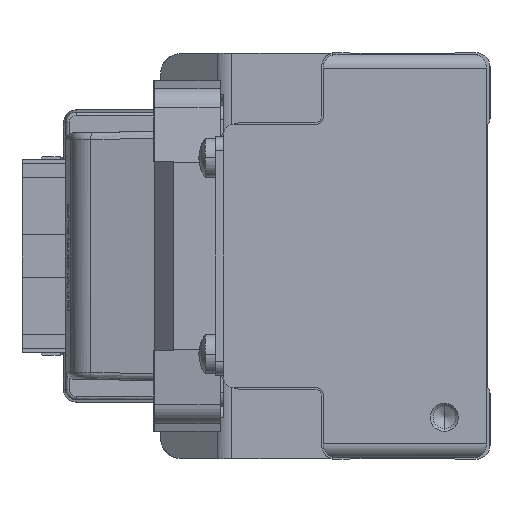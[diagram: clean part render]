
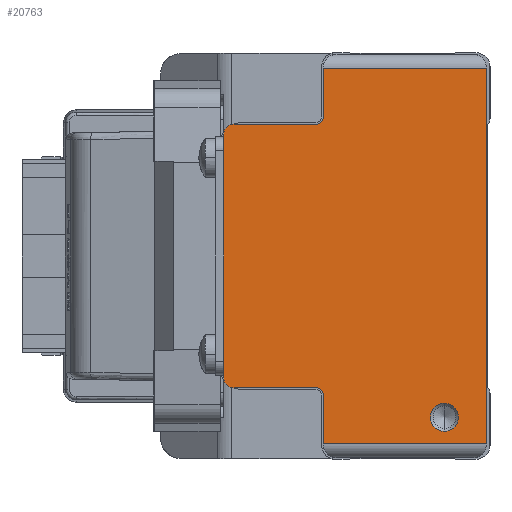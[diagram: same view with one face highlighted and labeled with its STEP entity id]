
A CAD part, left-side view. The second image highlights one B-rep face of the part: STEP entity #20763.
In plain terms, the highlighted planar face has unit normal (-1, 0, 0) as drawn and (0, 0, 1) by its records, which use the part's own axes.
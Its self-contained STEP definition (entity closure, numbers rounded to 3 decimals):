
#717 = LINE ( 'NONE', #11653, #42677 ) ;
#735 = EDGE_CURVE ( 'NONE', #26741, #19174, #7439, .T. ) ;
#1119 = VERTEX_POINT ( 'NONE', #29706 ) ;
#1592 = CARTESIAN_POINT ( 'NONE',  ( -17.3, 36.5, 220. ) ) ;
#2354 = DIRECTION ( 'NONE',  ( 0., 0., 1. ) ) ;
#2428 = CIRCLE ( 'NONE', #8023, 2. ) ;
#2885 = EDGE_CURVE ( 'NONE', #28102, #32705, #16164, .T. ) ;
#2922 = VECTOR ( 'NONE', #10857, 1000. ) ;
#3653 = EDGE_CURVE ( 'NONE', #42145, #28102, #17888, .T. ) ;
#4858 = EDGE_CURVE ( 'NONE', #40826, #23644, #26220, .T. ) ;
#6242 = LINE ( 'NONE', #36580, #29890 ) ;
#6907 = LINE ( 'NONE', #19822, #20672 ) ;
#7259 = CIRCLE ( 'NONE', #7935, 1. ) ;
#7323 = CARTESIAN_POINT ( 'NONE',  ( -26.8, 23.8, 220. ) ) ;
#7439 = CIRCLE ( 'NONE', #13698, 1. ) ;
#7935 = AXIS2_PLACEMENT_3D ( 'NONE', #41781, #2354, #35630 ) ;
#8023 = AXIS2_PLACEMENT_3D ( 'NONE', #20987, #14365, #14803 ) ;
#8271 = VECTOR ( 'NONE', #35865, 1000. ) ;
#8284 = CARTESIAN_POINT ( 'NONE',  ( 26.8, 23.8, 220. ) ) ;
#8432 = EDGE_LOOP ( 'NONE', ( #23787, #21301, #38257, #14018, #32461, #11590, #39000, #38050, #27719, #29335, #20740, #17499 ) ) ;
#9141 = DIRECTION ( 'NONE',  ( -1., 0., 0. ) ) ;
#9279 = AXIS2_PLACEMENT_3D ( 'NONE', #10213, #13072, #20547 ) ;
#9672 = AXIS2_PLACEMENT_3D ( 'NONE', #14415, #38479, #31610 ) ;
#9774 = CARTESIAN_POINT ( 'NONE',  ( -19.8, 24.8, 220. ) ) ;
#10213 = CARTESIAN_POINT ( 'NONE',  ( -26.8, 21.8, 220. ) ) ;
#10675 = VERTEX_POINT ( 'NONE', #7323 ) ;
#10709 = EDGE_CURVE ( 'NONE', #32705, #30372, #6907, .T. ) ;
#10857 = DIRECTION ( 'NONE',  ( 0., 1., 0. ) ) ;
#11280 = CARTESIAN_POINT ( 'NONE',  ( 18.8, 24.8, 220. ) ) ;
#11360 = VERTEX_POINT ( 'NONE', #23872 ) ;
#11590 = ORIENTED_EDGE ( 'NONE', *, *, #4858, .F. ) ;
#11653 = CARTESIAN_POINT ( 'NONE',  ( -26.8, 24., 220. ) ) ;
#11676 = DIRECTION ( 'NONE',  ( 1., 0., 0. ) ) ;
#12013 = EDGE_CURVE ( 'NONE', #26741, #10675, #19529, .T. ) ;
#12220 = EDGE_CURVE ( 'NONE', #11360, #1119, #32927, .T. ) ;
#13072 = DIRECTION ( 'NONE',  ( 0., 0., 1. ) ) ;
#13289 = CARTESIAN_POINT ( 'NONE',  ( -18.8, 36.5, 220. ) ) ;
#13322 = VECTOR ( 'NONE', #33737, 1000. ) ;
#13698 = AXIS2_PLACEMENT_3D ( 'NONE', #9774, #17848, #18081 ) ;
#13829 = EDGE_CURVE ( 'NONE', #40446, #23644, #22582, .T. ) ;
#14018 = ORIENTED_EDGE ( 'NONE', *, *, #42266, .T. ) ;
#14365 = DIRECTION ( 'NONE',  ( 0., 0., -1. ) ) ;
#14401 = VECTOR ( 'NONE', #39378, 1000. ) ;
#14415 = CARTESIAN_POINT ( 'NONE',  ( -23., 6.5, 220. ) ) ;
#14803 = DIRECTION ( 'NONE',  ( -1., 0., 0. ) ) ;
#14839 = LINE ( 'NONE', #8284, #42104 ) ;
#15007 = CIRCLE ( 'NONE', #22767, 1.5 ) ;
#15434 = EDGE_LOOP ( 'NONE', ( #37028, #26751 ) ) ;
#15632 = DIRECTION ( 'NONE',  ( 0., -1., 0. ) ) ;
#15690 = VERTEX_POINT ( 'NONE', #13289 ) ;
#16164 = CIRCLE ( 'NONE', #29519, 1.5 ) ;
#16992 = FACE_OUTER_BOUND ( 'NONE', #8432, .T. ) ;
#17324 = CARTESIAN_POINT ( 'NONE',  ( 26.8, 23.8, 220. ) ) ;
#17450 = EDGE_CURVE ( 'NONE', #42145, #33757, #7259, .T. ) ;
#17499 = ORIENTED_EDGE ( 'NONE', *, *, #21923, .T. ) ;
#17848 = DIRECTION ( 'NONE',  ( 0., 0., 1. ) ) ;
#17888 = LINE ( 'NONE', #25155, #2922 ) ;
#18081 = DIRECTION ( 'NONE',  ( 1., 0., 0. ) ) ;
#18469 = DIRECTION ( 'NONE',  ( 0., -1., 0. ) ) ;
#19174 = VERTEX_POINT ( 'NONE', #31951 ) ;
#19529 = LINE ( 'NONE', #22377, #8271 ) ;
#19822 = CARTESIAN_POINT ( 'NONE',  ( 17.3, 38., 220. ) ) ;
#20547 = DIRECTION ( 'NONE',  ( 1., 0., 0. ) ) ;
#20672 = VECTOR ( 'NONE', #33727, 1000. ) ;
#20740 = ORIENTED_EDGE ( 'NONE', *, *, #10709, .T. ) ;
#20763 = ADVANCED_FACE ( 'NONE', ( #34007, #16992 ), #40647, .T. ) ;
#20987 = CARTESIAN_POINT ( 'NONE',  ( -23., 6.5, 220. ) ) ;
#21301 = ORIENTED_EDGE ( 'NONE', *, *, #735, .F. ) ;
#21923 = EDGE_CURVE ( 'NONE', #30372, #15690, #15007, .T. ) ;
#22377 = CARTESIAN_POINT ( 'NONE',  ( -19.8, 23.8, 220. ) ) ;
#22582 = LINE ( 'NONE', #39810, #14401 ) ;
#22767 = AXIS2_PLACEMENT_3D ( 'NONE', #1592, #27964, #11676 ) ;
#23644 = VERTEX_POINT ( 'NONE', #28611 ) ;
#23761 = CARTESIAN_POINT ( 'NONE',  ( 26.8, 24., 220. ) ) ;
#23787 = ORIENTED_EDGE ( 'NONE', *, *, #37914, .T. ) ;
#23872 = CARTESIAN_POINT ( 'NONE',  ( -21., 6.5, 220. ) ) ;
#23941 = CARTESIAN_POINT ( 'NONE',  ( 17.3, 38., 220. ) ) ;
#24480 = DIRECTION ( 'NONE',  ( 1., 0., 0. ) ) ;
#25155 = CARTESIAN_POINT ( 'NONE',  ( 18.8, 24.8, 220. ) ) ;
#26072 = CARTESIAN_POINT ( 'NONE',  ( -19.8, 23.8, 220. ) ) ;
#26220 = LINE ( 'NONE', #23761, #13322 ) ;
#26741 = VERTEX_POINT ( 'NONE', #26072 ) ;
#26751 = ORIENTED_EDGE ( 'NONE', *, *, #12220, .T. ) ;
#26849 = EDGE_CURVE ( 'NONE', #1119, #11360, #2428, .T. ) ;
#27559 = CARTESIAN_POINT ( 'NONE',  ( 17.3, 36.5, 220. ) ) ;
#27719 = ORIENTED_EDGE ( 'NONE', *, *, #3653, .T. ) ;
#27964 = DIRECTION ( 'NONE',  ( 0., 0., 1. ) ) ;
#28102 = VERTEX_POINT ( 'NONE', #32128 ) ;
#28611 = CARTESIAN_POINT ( 'NONE',  ( 26.8, 0.5, 220. ) ) ;
#29335 = ORIENTED_EDGE ( 'NONE', *, *, #2885, .T. ) ;
#29519 = AXIS2_PLACEMENT_3D ( 'NONE', #27559, #38189, #24480 ) ;
#29706 = CARTESIAN_POINT ( 'NONE',  ( -25., 6.5, 220. ) ) ;
#29890 = VECTOR ( 'NONE', #15632, 1000. ) ;
#30372 = VERTEX_POINT ( 'NONE', #42244 ) ;
#31610 = DIRECTION ( 'NONE',  ( -1., 0., 0. ) ) ;
#31951 = CARTESIAN_POINT ( 'NONE',  ( -18.8, 24.8, 220. ) ) ;
#32128 = CARTESIAN_POINT ( 'NONE',  ( 18.8, 36.5, 220. ) ) ;
#32461 = ORIENTED_EDGE ( 'NONE', *, *, #13829, .T. ) ;
#32705 = VERTEX_POINT ( 'NONE', #23941 ) ;
#32927 = CIRCLE ( 'NONE', #9672, 2. ) ;
#33727 = DIRECTION ( 'NONE',  ( -1., 0., 0. ) ) ;
#33737 = DIRECTION ( 'NONE',  ( 0., -1., 0. ) ) ;
#33757 = VERTEX_POINT ( 'NONE', #42064 ) ;
#34007 = FACE_BOUND ( 'NONE', #15434, .T. ) ;
#35630 = DIRECTION ( 'NONE',  ( 1., 0., 0. ) ) ;
#35865 = DIRECTION ( 'NONE',  ( -1., 0., 0. ) ) ;
#36580 = CARTESIAN_POINT ( 'NONE',  ( -18.8, 36.5, 220. ) ) ;
#37028 = ORIENTED_EDGE ( 'NONE', *, *, #26849, .T. ) ;
#37466 = CARTESIAN_POINT ( 'NONE',  ( -26.8, 0.5, 220. ) ) ;
#37914 = EDGE_CURVE ( 'NONE', #15690, #19174, #6242, .T. ) ;
#38050 = ORIENTED_EDGE ( 'NONE', *, *, #17450, .F. ) ;
#38189 = DIRECTION ( 'NONE',  ( 0., 0., 1. ) ) ;
#38257 = ORIENTED_EDGE ( 'NONE', *, *, #12013, .T. ) ;
#38479 = DIRECTION ( 'NONE',  ( 0., 0., -1. ) ) ;
#39000 = ORIENTED_EDGE ( 'NONE', *, *, #42880, .T. ) ;
#39378 = DIRECTION ( 'NONE',  ( 1., 0., 0. ) ) ;
#39810 = CARTESIAN_POINT ( 'NONE',  ( -26.8, 0.5, 220. ) ) ;
#40446 = VERTEX_POINT ( 'NONE', #37466 ) ;
#40647 = PLANE ( 'NONE',  #9279 ) ;
#40826 = VERTEX_POINT ( 'NONE', #17324 ) ;
#41781 = CARTESIAN_POINT ( 'NONE',  ( 19.8, 24.8, 220. ) ) ;
#42064 = CARTESIAN_POINT ( 'NONE',  ( 19.8, 23.8, 220. ) ) ;
#42104 = VECTOR ( 'NONE', #9141, 1000. ) ;
#42145 = VERTEX_POINT ( 'NONE', #11280 ) ;
#42244 = CARTESIAN_POINT ( 'NONE',  ( -17.3, 38., 220. ) ) ;
#42266 = EDGE_CURVE ( 'NONE', #10675, #40446, #717, .T. ) ;
#42677 = VECTOR ( 'NONE', #18469, 1000. ) ;
#42880 = EDGE_CURVE ( 'NONE', #40826, #33757, #14839, .T. ) ;
